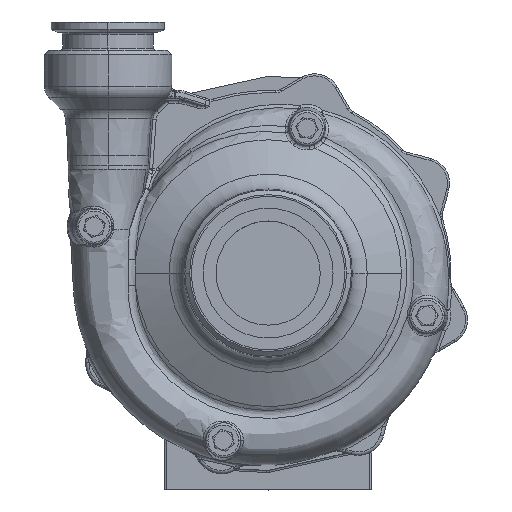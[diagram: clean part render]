
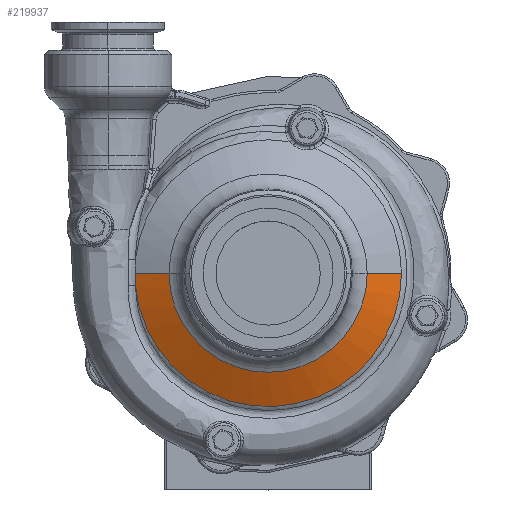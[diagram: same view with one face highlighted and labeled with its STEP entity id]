
A CAD part, top view. The second image highlights one B-rep face of the part: STEP entity #219937.
In plain terms, the highlighted conical face has half-angle 65 degrees and reference radius 72.76 mm.
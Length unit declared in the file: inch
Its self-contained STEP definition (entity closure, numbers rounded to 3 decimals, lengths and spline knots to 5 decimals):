
#3642 = CARTESIAN_POINT ( 'NONE',  ( -3.84104, -0.11865, 2.45322 ) ) ;
#5101 = DIRECTION ( 'NONE',  ( 0.906, 0., -0.423 ) ) ;
#6377 = VERTEX_POINT ( 'NONE', #237740 ) ;
#8400 = ORIENTED_EDGE ( 'NONE', *, *, #172164, .F. ) ;
#9074 = DIRECTION ( 'NONE',  ( -1., 0., 0. ) ) ;
#11275 = VERTEX_POINT ( 'NONE', #124181 ) ;
#15124 = CARTESIAN_POINT ( 'NONE',  ( 2.86456, 0., 2.90856 ) ) ;
#15492 = EDGE_CURVE ( 'NONE', #150957, #6377, #121720, .T. ) ;
#15514 = CARTESIAN_POINT ( 'NONE',  ( 0., 0., 2.447 ) ) ;
#31307 = CARTESIAN_POINT ( 'NONE',  ( 0., 0., 2.90856 ) ) ;
#35813 = B_SPLINE_CURVE_WITH_KNOTS ( 'NONE', 3,
 ( #187668, #3642, #128135, #228615 ),
 .UNSPECIFIED., .F., .F.,
 ( 4, 4 ),
 ( 0.00981, 0.01885 ),
 .UNSPECIFIED. ) ;
#44004 = EDGE_CURVE ( 'NONE', #11275, #6377, #35813, .T. ) ;
#44206 = CARTESIAN_POINT ( 'NONE',  ( 2.86456, 0., 2.90856 ) ) ;
#55464 = ORIENTED_EDGE ( 'NONE', *, *, #44004, .T. ) ;
#56314 = DIRECTION ( 'NONE',  ( -1., 0., 0. ) ) ;
#61213 = EDGE_LOOP ( 'NONE', ( #8400, #153631, #221758, #55464, #149044 ) ) ;
#76701 = LINE ( 'NONE', #136141, #184999 ) ;
#78744 = DIRECTION ( 'NONE',  ( -1., 0., 0. ) ) ;
#80404 = LINE ( 'NONE', #44206, #175887 ) ;
#85203 = AXIS2_PLACEMENT_3D ( 'NONE', #31307, #109515, #9074 ) ;
#95183 = VERTEX_POINT ( 'NONE', #181985 ) ;
#97499 = CARTESIAN_POINT ( 'NONE',  ( 0., 0., 2.90856 ) ) ;
#102686 = CARTESIAN_POINT ( 'NONE',  ( 3.85438, 0., 2.447 ) ) ;
#109515 = DIRECTION ( 'NONE',  ( 0., 0., -1. ) ) ;
#118571 = DIRECTION ( 'NONE',  ( 0., 0., -1. ) ) ;
#120113 = VERTEX_POINT ( 'NONE', #15124 ) ;
#121720 = CIRCLE ( 'NONE', #125619, 3.85438 ) ;
#124181 = CARTESIAN_POINT ( 'NONE',  ( -3.84064, 0., 2.45341 ) ) ;
#125619 = AXIS2_PLACEMENT_3D ( 'NONE', #15514, #118571, #56314 ) ;
#128135 = CARTESIAN_POINT ( 'NONE',  ( -3.84015, -0.23731, 2.45107 ) ) ;
#133265 = EDGE_CURVE ( 'NONE', #120113, #95183, #218320, .T. ) ;
#136141 = CARTESIAN_POINT ( 'NONE',  ( -2.86456, 0., 2.90856 ) ) ;
#140837 = EDGE_CURVE ( 'NONE', #95183, #11275, #76701, .T. ) ;
#149044 = ORIENTED_EDGE ( 'NONE', *, *, #15492, .F. ) ;
#150957 = VERTEX_POINT ( 'NONE', #102686 ) ;
#151938 = AXIS2_PLACEMENT_3D ( 'NONE', #97499, #199812, #78744 ) ;
#153631 = ORIENTED_EDGE ( 'NONE', *, *, #133265, .T. ) ;
#172164 = EDGE_CURVE ( 'NONE', #120113, #150957, #80404, .T. ) ;
#175887 = VECTOR ( 'NONE', #5101, 39.37008 ) ;
#181985 = CARTESIAN_POINT ( 'NONE',  ( -2.86456, 0., 2.90856 ) ) ;
#184999 = VECTOR ( 'NONE', #262332, 39.37008 ) ;
#187668 = CARTESIAN_POINT ( 'NONE',  ( -3.84064, 0., 2.45341 ) ) ;
#191796 = FACE_OUTER_BOUND ( 'NONE', #61213, .T. ) ;
#199812 = DIRECTION ( 'NONE',  ( 0., 0., -1. ) ) ;
#218320 = CIRCLE ( 'NONE', #151938, 2.86456 ) ;
#219937 = ADVANCED_FACE ( 'NONE', ( #191796 ), #232836, .T. ) ;
#221758 = ORIENTED_EDGE ( 'NONE', *, *, #140837, .T. ) ;
#228615 = CARTESIAN_POINT ( 'NONE',  ( -3.83791, -0.35597, 2.447 ) ) ;
#232836 = CONICAL_SURFACE ( 'NONE', #85203, 2.86456, 1.134 ) ;
#237740 = CARTESIAN_POINT ( 'NONE',  ( -3.83791, -0.35597, 2.447 ) ) ;
#262332 = DIRECTION ( 'NONE',  ( -0.906, 0., -0.423 ) ) ;
